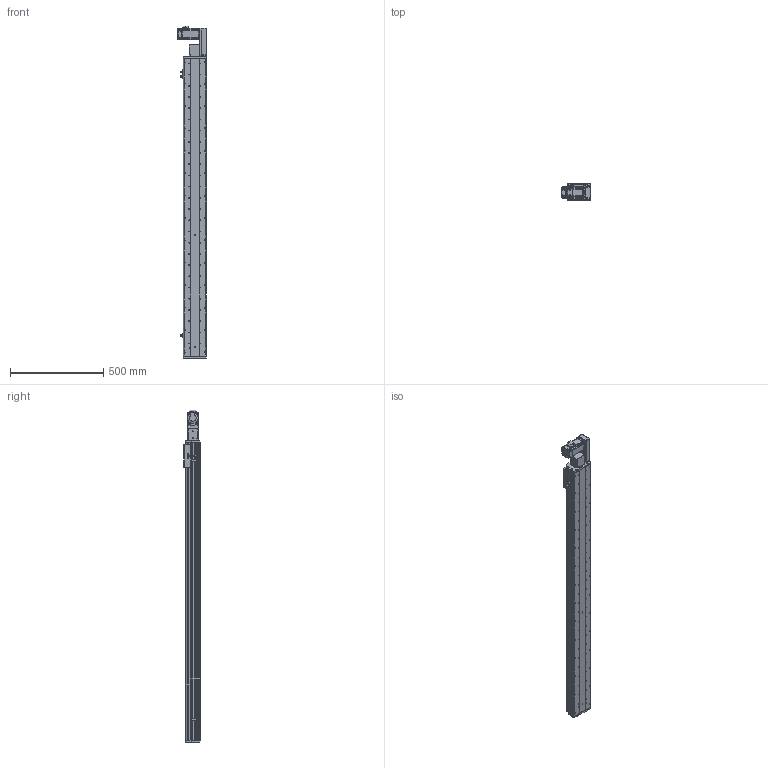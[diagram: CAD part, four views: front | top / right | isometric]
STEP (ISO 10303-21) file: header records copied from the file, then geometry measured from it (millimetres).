
FILE_DESCRIPTION (( 'STEP AP214' ), '1' );
FILE_NAME ('KSD125B-S1400-MLB-CM.STEP', '2017-10-21T02:03:46', ( '微软用户' ), ( '微软中国' ), 'SwSTEP 2.0', 'SolidWorks 2014', '' );
FILE_SCHEMA (( 'AUTOMOTIVE_DESIGN' ));
Length unit declared in the file: millimetre
Products named in the file (17): 悵誘欶奻狟殏; HTPA30S3M150_A_H6_a佪裝蚚; HTPA30S3M150_A_H6_a萇儂蚚; 100宽马达安装板连板上下折丝杆同步带; 100宽马达安装板同步带左; KSD125模组1400行程同步带-防尘盖; 125模组1400行程同步带-底板; MHMD042G1CA_2_03; KSD125模组同步带-防撞垫2; 覜茼え68遵圉猾敕; U倰嫖萇假蚾璃; U倰嫖萇EEㄜSX672; KSD125模组同步带-防撞垫1; 前端板-125宽模组同步带; 125模组同步带-尾端板1; KSD125模组同步带-滑动座1; KSD125B-S1400-MLB-CM
Assembly tree (20 placements, depth 2):
  KSD125B-S1400-MLB-CM
    KSD125模组同步带-滑动座1
    125模组同步带-尾端板1
    前端板-125宽模组同步带
    KSD125模组同步带-防撞垫1
    U倰嫖萇EEㄜSX672  x3
    U倰嫖萇假蚾璃  x3
    覜茼え68遵圉猾敕
    KSD125模组同步带-防撞垫2
    MHMD042G1CA_2_03
    125模组1400行程同步带-底板
    KSD125模组1400行程同步带-防尘盖
    100宽马达安装板同步带左
    100宽马达安装板连板上下折丝杆同步带
    HTPA30S3M150_A_H6_a萇儂蚚
    HTPA30S3M150_A_H6_a佪裝蚚
    悵誘欶奻狟殏
Bounding box: 155 x 86 x 1778 mm (x, y, z)
Volume: 4991567.5 mm3; surface area: 1658068.1 mm2
Topology: 19 solids, 22 shells, 2379 faces, 6901 edges, 4562 vertices
Faces by surface type: cylinder 1516, plane 736, cone 105, bspline 22
Entity records: 85151 total; most frequent: CARTESIAN_POINT 16767, DIRECTION 13226, ORIENTED_EDGE 12322, EDGE_CURVE 6239, AXIS2_PLACEMENT_3D 5133, VERTEX_POINT 4154, CIRCLE 2972, LINE 2960
